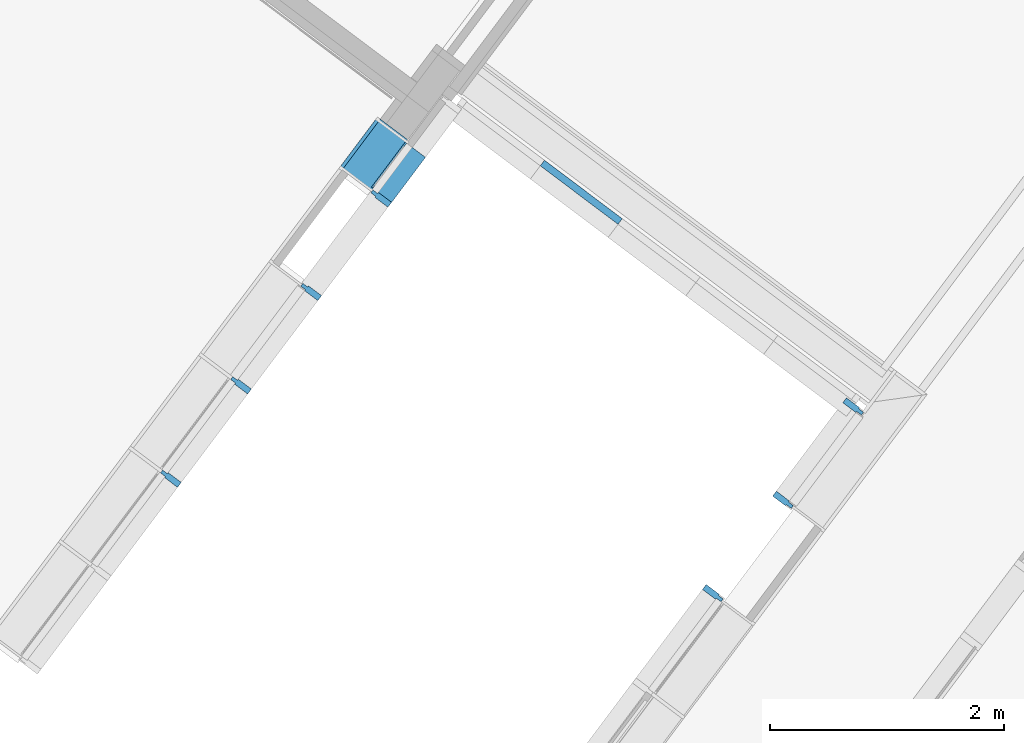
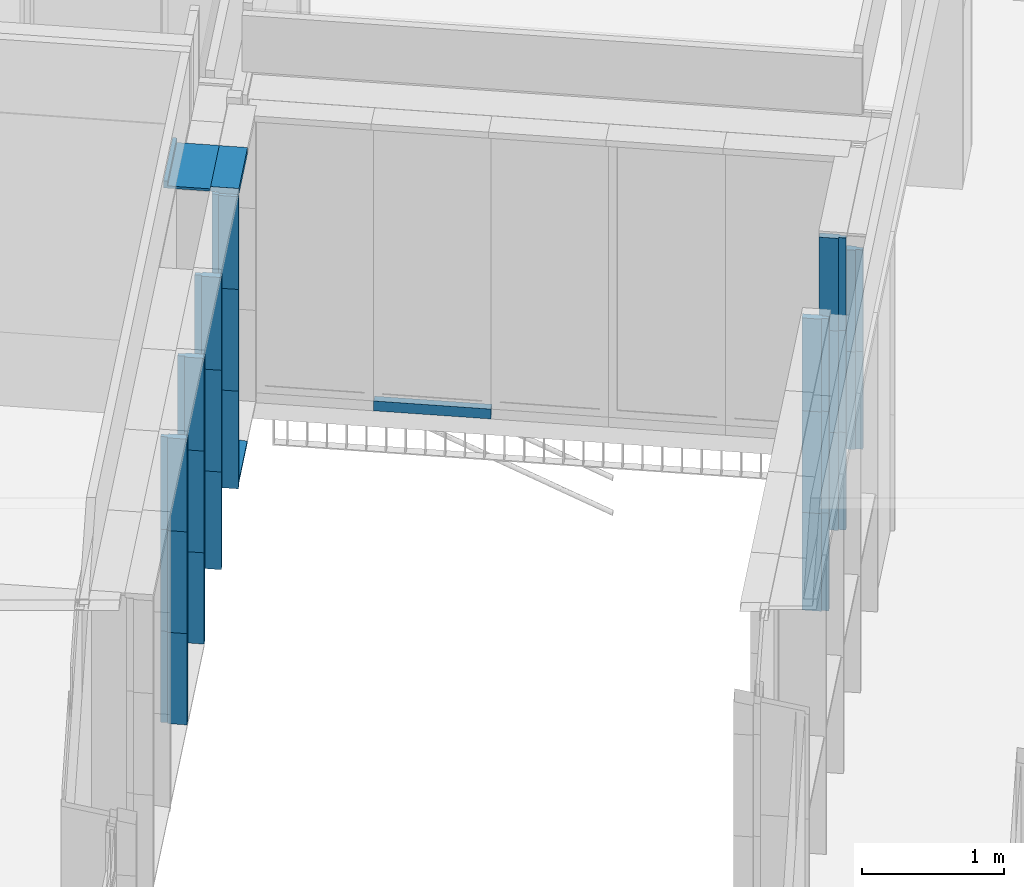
# One storey, part 97 of 243: 24 members, 4 elements without a shape of their own.
"""IFC2X3 building model written with IfcOpenShell, lengths in metres."""

from ifc_helpers import new_model, entity, si_unit, converted_unit, derived_unit, direction, frame, frame_2d, origin, place, context, subcontext, project, spatial, polyline, circle_curve, parameter, trimmed, segment, composite_curve, rectangle, outline, extrude, source, transform, mapped, material, type_object, type_shapes, element, aggregate, save


model = new_model("IFC2X3")

# Units and contexts
model_context = context("Model", 3, precision=1e-05, world=origin(), true_north=direction((6.123031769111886e-17, 1.0)))
body_context = subcontext(model_context, "Body", "Model", "MODEL_VIEW")
ifc_project = project(units=[si_unit("LENGTHUNIT", "METRE"), si_unit("AREAUNIT", "SQUARE_METRE"), si_unit("VOLUMEUNIT", "CUBIC_METRE"), converted_unit("PLANEANGLEUNIT", "DEGREE", entity("IfcRatioMeasure", 0.017453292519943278), si_unit("PLANEANGLEUNIT", "RADIAN"), dimensions=[0, 0, 0, 0, 0, 0, 0]), si_unit("MASSUNIT", "GRAM", prefix="KILO"), derived_unit("MASSDENSITYUNIT", [(si_unit("MASSUNIT", "GRAM", prefix="KILO"), 1), (si_unit("LENGTHUNIT", "METRE"), -3)]), derived_unit("IONCONCENTRATIONUNIT", [(si_unit("MASSUNIT", "GRAM", prefix="KILO"), 1), (si_unit("LENGTHUNIT", "METRE"), -3)]), derived_unit("MOMENTOFINERTIAUNIT", [(si_unit("LENGTHUNIT", "METRE"), 4)]), si_unit("TIMEUNIT", "SECOND"), si_unit("FREQUENCYUNIT", "HERTZ"), si_unit("THERMODYNAMICTEMPERATUREUNIT", "DEGREE_CELSIUS"), derived_unit("THERMALTRANSMITTANCEUNIT", [(si_unit("MASSUNIT", "GRAM", prefix="KILO"), 1), (si_unit("THERMODYNAMICTEMPERATUREUNIT", "KELVIN"), -1), (si_unit("TIMEUNIT", "SECOND"), -3)]), derived_unit("THERMALCONDUCTANCEUNIT", [(si_unit("MASSUNIT", "GRAM", prefix="KILO"), 1), (si_unit("THERMODYNAMICTEMPERATUREUNIT", "KELVIN"), -1), (si_unit("TIMEUNIT", "SECOND"), -3), (si_unit("LENGTHUNIT", "METRE"), 1)]), derived_unit("VOLUMETRICFLOWRATEUNIT", [(si_unit("LENGTHUNIT", "METRE"), 3), (si_unit("TIMEUNIT", "SECOND"), -1)]), derived_unit("MASSFLOWRATEUNIT", [(si_unit("MASSUNIT", "GRAM", prefix="KILO"), 1), (si_unit("TIMEUNIT", "SECOND"), -1)]), derived_unit("ROTATIONALFREQUENCYUNIT", [(si_unit("TIMEUNIT", "SECOND"), -1)]), si_unit("ELECTRICCURRENTUNIT", "AMPERE"), si_unit("ELECTRICVOLTAGEUNIT", "VOLT"), si_unit("POWERUNIT", "WATT"), si_unit("FORCEUNIT", "NEWTON", prefix="KILO"), si_unit("ILLUMINANCEUNIT", "LUX"), si_unit("LUMINOUSFLUXUNIT", "LUMEN"), si_unit("LUMINOUSINTENSITYUNIT", "CANDELA"), derived_unit("USERDEFINED", [(si_unit("MASSUNIT", "GRAM", prefix="KILO"), -1), (si_unit("LENGTHUNIT", "METRE"), -2), (si_unit("TIMEUNIT", "SECOND"), 3), (si_unit("LUMINOUSFLUXUNIT", "LUMEN"), 1)]), derived_unit("USERDEFINED", [(si_unit("MASSUNIT", "GRAM", prefix="KILO"), 1), (si_unit("TIMEUNIT", "SECOND"), -3), (si_unit("LENGTHUNIT", "METRE"), 3), (si_unit("ELECTRICCURRENTUNIT", "AMPERE"), -2)]), derived_unit("SOUNDPOWERUNIT", [(si_unit("MASSUNIT", "GRAM", prefix="KILO"), 1), (si_unit("TIMEUNIT", "SECOND"), -3), (si_unit("LENGTHUNIT", "METRE"), 2)]), derived_unit("SOUNDPRESSUREUNIT", [(si_unit("MASSUNIT", "GRAM", prefix="KILO"), 1), (si_unit("LENGTHUNIT", "METRE"), -1), (si_unit("TIMEUNIT", "SECOND"), -2)]), derived_unit("LINEARVELOCITYUNIT", [(si_unit("LENGTHUNIT", "METRE"), 1), (si_unit("TIMEUNIT", "SECOND"), -1)]), si_unit("PRESSUREUNIT", "PASCAL"), derived_unit("USERDEFINED", [(si_unit("MASSUNIT", "GRAM", prefix="KILO"), 1), (si_unit("LENGTHUNIT", "METRE"), -2), (si_unit("TIMEUNIT", "SECOND"), -2)]), derived_unit("LINEARFORCEUNIT", [(si_unit("MASSUNIT", "GRAM", prefix="KILO"), 1), (si_unit("TIMEUNIT", "SECOND"), -2)]), derived_unit("PLANARFORCEUNIT", [(si_unit("MASSUNIT", "GRAM", prefix="KILO"), 1), (si_unit("LENGTHUNIT", "METRE"), -1), (si_unit("TIMEUNIT", "SECOND"), -2)]), derived_unit("SPECIFICHEATCAPACITYUNIT", [(si_unit("THERMODYNAMICTEMPERATUREUNIT", "KELVIN"), -1), (si_unit("LENGTHUNIT", "METRE"), 2), (si_unit("TIMEUNIT", "SECOND"), -2)]), derived_unit("HEATINGVALUEUNIT", [(si_unit("LENGTHUNIT", "METRE"), 2), (si_unit("TIMEUNIT", "SECOND"), -2)]), derived_unit("VAPORPERMEABILITYUNIT", [(si_unit("LENGTHUNIT", "METRE"), -1), (si_unit("TIMEUNIT", "SECOND"), 1)]), derived_unit("DYNAMICVISCOSITYUNIT", [(si_unit("MASSUNIT", "GRAM", prefix="KILO"), 1), (si_unit("TIMEUNIT", "SECOND"), -1), (si_unit("LENGTHUNIT", "METRE"), -1)]), derived_unit("THERMALEXPANSIONCOEFFICIENTUNIT", [(si_unit("THERMODYNAMICTEMPERATUREUNIT", "KELVIN"), -1)]), derived_unit("MODULUSOFELASTICITYUNIT", [(si_unit("MASSUNIT", "GRAM", prefix="KILO"), 1), (si_unit("LENGTHUNIT", "METRE"), -1), (si_unit("TIMEUNIT", "SECOND"), -2)]), derived_unit("ISOTHERMALMOISTURECAPACITYUNIT", [(si_unit("LENGTHUNIT", "METRE"), 3), (si_unit("MASSUNIT", "GRAM", prefix="KILO"), -1)]), derived_unit("MOISTUREDIFFUSIVITYUNIT", [(si_unit("TIMEUNIT", "SECOND"), -1), (si_unit("LENGTHUNIT", "METRE"), 2)])], contexts=[model_context])

# Site, building, storey
site_placement = place(None, frame((0.0, 0.0, 235.0), z_axis=(0.0, 0.0, 1.0), x_axis=(-0.7996477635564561, 0.6004693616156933, 0.0)))
site = spatial("IfcSite", under=ifc_project, at=site_placement, Name="Default", CompositionType="ELEMENT")
building_placement = place(site_placement, origin())
building = spatial("IfcBuilding", under=site, at=building_placement, CompositionType="ELEMENT")
storey_placement = place(building_placement, origin())
storey = spatial("IfcBuildingStorey", under=building, at=storey_placement, Name="P0- Escola", CompositionType="ELEMENT", Elevation=0.0)

# Curtain wall, members
curtain_wall_type_1 = type_object("IfcCurtainWallType", Name="Muro cortina:MC- EXT- MC2", PredefinedType="NOTDEFINED")
curtain_wall_1_placement = place(storey_placement, origin())
curtain_wall_1 = element("IfcCurtainWall", 1, at=curtain_wall_1_placement, inside=storey, type_object=curtain_wall_type_1, Name="Muro cortina:MC- EXT- MC2", ObjectType="Muro cortina:MC- EXT- MC2")
ifc_material_1 = material(Name="_Alumini- T1- Perfil")
member_type_1 = type_object("IfcMemberType", Name="Montante rectangular:MC- Alu- 140x52,5 cm- Fa patis- Centre", PredefinedType="MULLION", material=ifc_material_1)
shared_shape_1 = source(origin(), body_context, "Body", "SweptSolid", [
    extrude(outline(polyline([(-0.11699999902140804, -0.026250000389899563), (0.021999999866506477, -0.026250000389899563), (0.021999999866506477, -0.01500000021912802), (0.07299999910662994, -0.01500000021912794), (0.07299999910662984, 0.015000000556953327), (0.02200000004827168, 0.015000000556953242), (0.02200000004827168, 0.026250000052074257), (-0.11699999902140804, 0.026250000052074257), (-0.11699999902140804, -0.026250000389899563)])), frame((0.0, 0.022999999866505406, -0.8400000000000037), z_axis=(0.0, 0.0, 1.0), x_axis=(0.0, -1.0, 0.0)), (0.0, 0.0, 1.0), 0.8400000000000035),
])
type_shapes(member_type_1, [shared_shape_1])
member_1_placement = place(curtain_wall_1_placement, frame((53.745147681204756, -35.41519175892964, -0.02), z_axis=(0.0, 0.0, -1.0), x_axis=(0.0, -1.0, 0.0)))
member_1 = element("IfcMember", 2, at=member_1_placement, type_object=member_type_1, material=ifc_material_1, Name="Montante rectangular:MC- Alu- 140x52,5 cm- Fa patis- Centre", ObjectType="Montante rectangular:MC- Alu- 140x52,5 cm- Fa patis- Centre", context=body_context, shape_type="MappedRepresentation", body=[
    mapped(shared_shape_1, transform((0.0, 0.0, 0.0), scale=1.0)),
])
member_2_placement = place(curtain_wall_1_placement, frame((53.745147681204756, -34.4151917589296, -0.02), z_axis=(0.0, 0.0, -1.0), x_axis=(0.0, -1.0, 0.0)))
member_2 = element("IfcMember", 3, at=member_2_placement, type_object=member_type_1, material=ifc_material_1, Name="Montante rectangular:MC- Alu- 140x52,5 cm- Fa patis- Centre", ObjectType="Montante rectangular:MC- Alu- 140x52,5 cm- Fa patis- Centre", context=body_context, shape_type="MappedRepresentation", body=[
    mapped(shared_shape_1, transform((0.0, 0.0, 0.0), scale=1.0)),
])
member_type_2 = type_object("IfcMemberType", Name="Montante rectangular:MC- Alu- 140x52,5 cm- Fa patis- Centre", PredefinedType="MULLION", material=ifc_material_1)
shared_shape_2 = source(origin(), body_context, "Body", "SweptSolid", [
    extrude(outline(polyline([(-0.11699999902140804, -0.026250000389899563), (0.021999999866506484, -0.026250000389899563), (0.021999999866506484, -0.01500000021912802), (0.07299999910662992, -0.01500000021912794), (0.07299999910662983, 0.015000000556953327), (0.022000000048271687, 0.015000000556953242), (0.022000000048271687, 0.026250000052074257), (-0.11699999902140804, 0.026250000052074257), (-0.11699999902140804, -0.026250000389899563)])), frame((0.0, 0.022999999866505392, -0.7850000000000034), z_axis=(0.0, 0.0, 1.0), x_axis=(0.0, -1.0, 0.0)), (0.0, 0.0, 1.0), 0.7850000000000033),
])
type_shapes(member_type_2, [shared_shape_2])
member_3_placement = place(curtain_wall_1_placement, frame((53.74514768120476, -32.415191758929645, 0.035000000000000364), z_axis=(0.0, 0.0, -1.0), x_axis=(0.0, -1.0, 0.0)))
member_3 = element("IfcMember", 4, at=member_3_placement, type_object=member_type_2, material=ifc_material_1, Name="Montante rectangular:MC- Alu- 140x52,5 cm- Fa patis- Centre", ObjectType="Montante rectangular:MC- Alu- 140x52,5 cm- Fa patis- Centre", context=body_context, shape_type="MappedRepresentation", body=[
    mapped(shared_shape_2, transform((0.0, 0.0, 0.0), scale=1.0)),
])
member_4_placement = place(curtain_wall_1_placement, frame((53.74514768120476, -33.41519175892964, 0.035000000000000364), z_axis=(0.0, 0.0, -1.0), x_axis=(0.0, -1.0, 0.0)))
member_4 = element("IfcMember", 5, at=member_4_placement, type_object=member_type_2, material=ifc_material_1, Name="Montante rectangular:MC- Alu- 140x52,5 cm- Fa patis- Centre", ObjectType="Montante rectangular:MC- Alu- 140x52,5 cm- Fa patis- Centre", context=body_context, shape_type="MappedRepresentation", body=[
    mapped(shared_shape_2, transform((0.0, 0.0, 0.0), scale=1.0)),
])
member_type_3 = type_object("IfcMemberType", Name="Montante rectangular:MC- Alu- 140x52,5 cm- Fa patis- Centre", PredefinedType="MULLION", material=ifc_material_1)
shared_shape_3 = source(origin(), body_context, "Body", "SweptSolid", [
    extrude(outline(polyline([(-0.11699999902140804, -0.026250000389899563), (0.021999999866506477, -0.026250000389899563), (0.021999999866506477, -0.01500000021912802), (0.07299999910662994, -0.01500000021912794), (0.07299999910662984, 0.015000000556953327), (0.02200000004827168, 0.015000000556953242), (0.02200000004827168, 0.026250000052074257), (-0.11699999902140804, 0.026250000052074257), (-0.11699999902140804, -0.026250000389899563)])), frame((0.0, 0.022999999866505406, -0.8750000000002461), z_axis=(0.0, 0.0, 1.0), x_axis=(0.0, -1.0, 0.0)), (0.0, 0.0, 1.0), 0.8750000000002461),
])
type_shapes(member_type_3, [shared_shape_3])
member_5_placement = place(curtain_wall_1_placement, frame((53.74514768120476, -32.415191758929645, 0.8200000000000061), z_axis=(0.0, 0.0, -1.0), x_axis=(0.0, -1.0, 0.0)))
member_5 = element("IfcMember", 6, at=member_5_placement, type_object=member_type_3, material=ifc_material_1, Name="Montante rectangular:MC- Alu- 140x52,5 cm- Fa patis- Centre", ObjectType="Montante rectangular:MC- Alu- 140x52,5 cm- Fa patis- Centre", context=body_context, shape_type="MappedRepresentation", body=[
    mapped(shared_shape_3, transform((0.0, 0.0, 0.0), scale=1.0)),
])
member_6_placement = place(curtain_wall_1_placement, frame((53.74514768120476, -33.41519175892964, 0.8200000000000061), z_axis=(0.0, 0.0, -1.0), x_axis=(0.0, -1.0, 0.0)))
member_6 = element("IfcMember", 7, at=member_6_placement, type_object=member_type_3, material=ifc_material_1, Name="Montante rectangular:MC- Alu- 140x52,5 cm- Fa patis- Centre", ObjectType="Montante rectangular:MC- Alu- 140x52,5 cm- Fa patis- Centre", context=body_context, shape_type="MappedRepresentation", body=[
    mapped(shared_shape_3, transform((0.0, 0.0, 0.0), scale=1.0)),
])
member_7_placement = place(curtain_wall_1_placement, frame((53.745147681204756, -34.4151917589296, 0.8200000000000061), z_axis=(0.0, 0.0, -1.0), x_axis=(0.0, -1.0, 0.0)))
member_7 = element("IfcMember", 8, at=member_7_placement, type_object=member_type_3, material=ifc_material_1, Name="Montante rectangular:MC- Alu- 140x52,5 cm- Fa patis- Centre", ObjectType="Montante rectangular:MC- Alu- 140x52,5 cm- Fa patis- Centre", context=body_context, shape_type="MappedRepresentation", body=[
    mapped(shared_shape_3, transform((0.0, 0.0, 0.0), scale=1.0)),
])
member_8_placement = place(curtain_wall_1_placement, frame((53.745147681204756, -35.41519175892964, 0.8200000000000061), z_axis=(0.0, 0.0, -1.0), x_axis=(0.0, -1.0, 0.0)))
member_8 = element("IfcMember", 9, at=member_8_placement, type_object=member_type_3, material=ifc_material_1, Name="Montante rectangular:MC- Alu- 140x52,5 cm- Fa patis- Centre", ObjectType="Montante rectangular:MC- Alu- 140x52,5 cm- Fa patis- Centre", context=body_context, shape_type="MappedRepresentation", body=[
    mapped(shared_shape_3, transform((0.0, 0.0, 0.0), scale=1.0)),
])

# Curtain wall, member
curtain_wall_type_2 = type_object("IfcCurtainWallType", Name="Muro cortina:MC- INT- k7- Aules infantil", PredefinedType="NOTDEFINED")
curtain_wall_2_placement = place(storey_placement, origin())
curtain_wall_2 = element("IfcCurtainWall", 10, at=curtain_wall_2_placement, inside=storey, type_object=curtain_wall_type_2, Name="Muro cortina:MC- INT- k7- Aules infantil", ObjectType="Muro cortina:MC- INT- k7- Aules infantil")
ifc_material_2 = material(Name="_Fusta massisa- T1")
member_type_4 = type_object("IfcMemberType", Name="Montante rectangular:MC- Fusta- 35x3 cm- Pati aules- Remat superior", PredefinedType="MULLION", material=ifc_material_2)
shared_shape_4 = source(origin(), body_context, "Body", "SweptSolid", [
    extrude(outline(polyline([(-0.21333333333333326, -0.02666666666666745), (0.1216666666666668, -0.02666666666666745), (0.12166666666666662, 0.03333333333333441), (0.09166666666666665, 0.03333333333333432), (0.09166666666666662, -0.006666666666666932), (-0.2133333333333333, -0.006666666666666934), (-0.21333333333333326, -0.02666666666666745)])), frame((-0.033333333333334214, 0.026666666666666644, -0.5379982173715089), z_axis=(0.0, 0.0, 1.0), x_axis=(0.0, -1.0, 0.0)), (0.0, 0.0, 1.0), 0.5379982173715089),
])
type_shapes(member_type_4, [shared_shape_4])
member_9_placement = place(curtain_wall_2_placement, frame((54.045147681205, -35.95318997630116, 2.565), z_axis=(0.0, -1.0, 0.0), x_axis=(0.0, 0.0, 1.0)))
member_9 = element("IfcMember", 11, at=member_9_placement, type_object=member_type_4, material=ifc_material_2, Name="Montante rectangular:MC- Fusta- 35x3 cm- Pati aules- Remat superior", ObjectType="Montante rectangular:MC- Fusta- 35x3 cm- Pati aules- Remat superior", context=body_context, shape_type="MappedRepresentation", body=[
    mapped(shared_shape_4, transform((0.0, 0.0, 0.0), scale=1.0)),
])
aggregate(curtain_wall_2, [member_9])

# Member
member_type_5 = type_object("IfcMemberType", Name="Montante rectangular:MC- Alu- 140x52,5 cm- Fa patis- inferior", PredefinedType="MULLION", material=ifc_material_1)
shared_shape_5 = source(origin(), body_context, "Body", "SweptSolid", [
    extrude(outline(composite_curve([segment(polyline([(0.1278672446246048, -0.025867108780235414), (0.14416724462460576, -0.025867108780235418)]), True, "CONTINUOUS"), segment(polyline([(0.14416724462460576, -0.025867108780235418), (0.1441672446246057, 0.009132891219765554)]), True, "CONTINUOUS"), segment(polyline([(0.1441672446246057, 0.009132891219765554), (0.06786724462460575, 0.009132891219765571)]), True, "CONTINUOUS"), segment(polyline([(0.06786724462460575, 0.009132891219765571), (0.06786724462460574, -0.021159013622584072)]), True, "CONTINUOUS"), segment(polyline([(0.06786724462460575, -0.021159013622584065), (-0.030132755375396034, -0.012332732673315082)]), True, "CONTINUOUS"), segment(polyline([(-0.03013275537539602, -0.012332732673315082), (-0.030132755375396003, 0.0271328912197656)]), True, "CONTINUOUS"), segment(polyline([(-0.030132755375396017, 0.027132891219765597), (-0.0021327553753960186, 0.027132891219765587)]), True, "CONTINUOUS"), segment(polyline([(-0.0021327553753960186, 0.02713289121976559), (-0.0021327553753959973, 0.029132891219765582)]), True, "CONTINUOUS"), segment(polyline([(-0.0021327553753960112, 0.029132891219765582), (-0.032132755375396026, 0.029132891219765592)]), True, "CONTINUOUS"), segment(polyline([(-0.032132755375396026, 0.029132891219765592), (-0.03213275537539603, -0.012152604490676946)]), True, "CONTINUOUS"), segment(polyline([(-0.03213275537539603, -0.012152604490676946), (-0.0701327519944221, -0.008730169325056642)]), True, "CONTINUOUS"), segment(polyline([(-0.0701327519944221, -0.008730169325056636), (-0.0701327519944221, 0.005766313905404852)]), True, "CONTINUOUS"), segment(trimmed(circle_curve(frame_2d((-0.0696327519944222, 0.005766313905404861), x_axis=(-1.0, 0.0)), 0.0004999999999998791), [parameter(269.999999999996)], [parameter(0.0)], True, "PARAMETER"), False, "CONTINUOUS"), segment(polyline([(-0.0696327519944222, 0.006266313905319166), (-0.06213275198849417, 0.0062663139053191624)]), True, "CONTINUOUS"), segment(polyline([(-0.06213275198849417, 0.0062663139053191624), (-0.06213275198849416, 0.008266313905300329)]), True, "CONTINUOUS"), segment(polyline([(-0.06213275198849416, 0.008266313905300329), (-0.07013275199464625, 0.00826631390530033)]), True, "CONTINUOUS"), segment(trimmed(circle_curve(frame_2d((-0.07013275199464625, 0.006266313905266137), x_axis=(0.0, 1.0)), 0.0020000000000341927), [parameter(0.0)], [parameter(90.00000002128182)], True, "PARAMETER"), True, "CONTINUOUS"), segment(polyline([(-0.07213275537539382, 0.00626631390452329), (-0.07213275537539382, -0.008730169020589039)]), True, "CONTINUOUS"), segment(trimmed(circle_curve(frame_2d((-0.07013275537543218, -0.008730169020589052), x_axis=(-1.0, 0.0)), 0.0019999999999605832), [parameter(0.0)], [parameter(84.85359280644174)], True, "PARAMETER"), True, "CONTINUOUS"), segment(polyline([(-0.07031215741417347, -0.010722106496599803), (0.06786724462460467, -0.023167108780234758)]), True, "CONTINUOUS"), segment(polyline([(0.06786724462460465, -0.02316710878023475), (0.12786724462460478, -0.02316710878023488)]), True, "CONTINUOUS"), segment(polyline([(0.12786724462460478, -0.02316710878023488), (0.1278672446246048, -0.025867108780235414)]), True, "CONTINUOUS")], self_intersect=False)), frame((-0.029132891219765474, 0.06786724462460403, -0.4817482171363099), z_axis=(0.0, 0.0, 1.0), x_axis=(0.0, -1.0, 0.0)), (0.0, 0.0, 1.0), 0.48174821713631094),
])
type_shapes(member_type_5, [shared_shape_5])
member_10_placement = place(curtain_wall_1_placement, frame((53.745147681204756, -35.44144175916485, -0.02), z_axis=(0.0, 1.0, 0.0), x_axis=(0.0, 0.0, -1.0)))
member_10 = element("IfcMember", 12, at=member_10_placement, type_object=member_type_5, material=ifc_material_1, Name="Montante rectangular:MC- Alu- 140x52,5 cm- Fa patis- inferior", ObjectType="Montante rectangular:MC- Alu- 140x52,5 cm- Fa patis- inferior", context=body_context, shape_type="MappedRepresentation", body=[
    mapped(shared_shape_5, transform((0.0, 0.0, 0.0), scale=1.0)),
])

member_type_6 = type_object("IfcMemberType", Name="Montante rectangular:MC- Alu- 140x52,5 cm- Fa patis- Superior", PredefinedType="MULLION", material=ifc_material_1)
shared_shape_6 = source(origin(), body_context, "Body", "SweptSolid", [
    extrude(outline(polyline([(-0.11366666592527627, -0.021249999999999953), (0.02633333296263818, -0.021249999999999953), (0.02633333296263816, -0.010000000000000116), (0.08733333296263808, -0.010000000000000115), (0.08733333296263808, 0.03125000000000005), (-0.11366666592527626, 0.031250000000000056), (-0.11366666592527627, -0.021249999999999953)])), frame((-0.031250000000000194, 0.027333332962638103, -0.5079982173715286), z_axis=(0.0, 0.0, 1.0), x_axis=(0.0, -1.0, 0.0)), (0.0, 0.0, 1.0), 0.5079982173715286),
])
type_shapes(member_type_6, [shared_shape_6])
member_11_placement = place(curtain_wall_1_placement, frame((53.745147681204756, -35.92318997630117, 2.545), z_axis=(0.0, -1.0, 0.0), x_axis=(0.0, 0.0, 1.0)))
member_11 = element("IfcMember", 13, at=member_11_placement, type_object=member_type_6, material=ifc_material_1, Name="Montante rectangular:MC- Alu- 140x52,5 cm- Fa patis- Superior", ObjectType="Montante rectangular:MC- Alu- 140x52,5 cm- Fa patis- Superior", context=body_context, shape_type="MappedRepresentation", body=[
    mapped(shared_shape_6, transform((0.0, 0.0, 0.0), scale=1.0)),
])

member_type_7 = type_object("IfcMemberType", Name="Montante rectangular:MC- Alu- 140x52,5 cm- Fa patis- Centre", PredefinedType="MULLION", material=ifc_material_1)
shared_shape_7 = source(origin(), body_context, "Body", "SweptSolid", [
    extrude(outline(polyline([(-0.11699999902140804, -0.026250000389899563), (0.021999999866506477, -0.026250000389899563), (0.021999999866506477, -0.01500000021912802), (0.07299999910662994, -0.01500000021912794), (0.07299999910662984, 0.015000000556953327), (0.02200000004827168, 0.015000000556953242), (0.02200000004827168, 0.026250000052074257), (-0.11699999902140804, 0.026250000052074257), (-0.11699999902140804, -0.026250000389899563)])), frame((0.0, 0.022999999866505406, -0.79749999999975), z_axis=(0.0, 0.0, 1.0), x_axis=(0.0, -1.0, 0.0)), (0.0, 0.0, 1.0), 0.79749999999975),
])
type_shapes(member_type_7, [shared_shape_7])
member_12_placement = place(curtain_wall_1_placement, frame((53.74514768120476, -32.415191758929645, 1.6950000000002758), z_axis=(0.0, 0.0, -1.0), x_axis=(0.0, -1.0, 0.0)))
member_12 = element("IfcMember", 14, at=member_12_placement, type_object=member_type_7, material=ifc_material_1, Name="Montante rectangular:MC- Alu- 140x52,5 cm- Fa patis- Centre", ObjectType="Montante rectangular:MC- Alu- 140x52,5 cm- Fa patis- Centre", context=body_context, shape_type="MappedRepresentation", body=[
    mapped(shared_shape_7, transform((0.0, 0.0, 0.0), scale=1.0)),
])

member_13_placement = place(curtain_wall_1_placement, frame((53.74514768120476, -33.41519175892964, 1.6950000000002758), z_axis=(0.0, 0.0, -1.0), x_axis=(0.0, -1.0, 0.0)))
member_13 = element("IfcMember", 15, at=member_13_placement, type_object=member_type_7, material=ifc_material_1, Name="Montante rectangular:MC- Alu- 140x52,5 cm- Fa patis- Centre", ObjectType="Montante rectangular:MC- Alu- 140x52,5 cm- Fa patis- Centre", context=body_context, shape_type="MappedRepresentation", body=[
    mapped(shared_shape_7, transform((0.0, 0.0, 0.0), scale=1.0)),
])

member_14_placement = place(curtain_wall_1_placement, frame((53.745147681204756, -34.4151917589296, 1.6950000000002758), z_axis=(0.0, 0.0, -1.0), x_axis=(0.0, -1.0, 0.0)))
member_14 = element("IfcMember", 16, at=member_14_placement, type_object=member_type_7, material=ifc_material_1, Name="Montante rectangular:MC- Alu- 140x52,5 cm- Fa patis- Centre", ObjectType="Montante rectangular:MC- Alu- 140x52,5 cm- Fa patis- Centre", context=body_context, shape_type="MappedRepresentation", body=[
    mapped(shared_shape_7, transform((0.0, 0.0, 0.0), scale=1.0)),
])

member_15_placement = place(curtain_wall_1_placement, frame((53.745147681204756, -35.41519175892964, 1.6950000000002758), z_axis=(0.0, 0.0, -1.0), x_axis=(0.0, -1.0, 0.0)))
member_15 = element("IfcMember", 17, at=member_15_placement, type_object=member_type_7, material=ifc_material_1, Name="Montante rectangular:MC- Alu- 140x52,5 cm- Fa patis- Centre", ObjectType="Montante rectangular:MC- Alu- 140x52,5 cm- Fa patis- Centre", context=body_context, shape_type="MappedRepresentation", body=[
    mapped(shared_shape_7, transform((0.0, 0.0, 0.0), scale=1.0)),
])

aggregate(curtain_wall_1, [member_3, member_4, member_10, member_1, member_2, member_11, member_5, member_6, member_7, member_8, member_12, member_13, member_14, member_15])

# Curtain wall, members
curtain_wall_type_3 = type_object("IfcCurtainWallType", Name="Muro cortina:MC- EXT- MC5", PredefinedType="NOTDEFINED")
curtain_wall_3_placement = place(storey_placement, origin())
curtain_wall_3 = element("IfcCurtainWall", 18, at=curtain_wall_3_placement, inside=storey, type_object=curtain_wall_type_3, Name="Muro cortina:MC- EXT- MC5", ObjectType="Muro cortina:MC- EXT- MC5")
member_type_8 = type_object("IfcMemberType", Name="Montante rectangular:MC- Alu- 140x52,5 cm- Fa patis- Centre", PredefinedType="MULLION", material=ifc_material_1)
shared_shape_8 = source(origin(), body_context, "Body", "SweptSolid", [
    extrude(outline(polyline([(-0.021999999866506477, -0.026250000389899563), (0.11699999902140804, -0.026250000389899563), (0.11699999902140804, 0.026250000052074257), (-0.02200000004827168, 0.026250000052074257), (-0.02200000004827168, 0.015000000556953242), (-0.07299999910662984, 0.015000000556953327), (-0.07299999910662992, -0.015000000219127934), (-0.021999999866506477, -0.015000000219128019), (-0.021999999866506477, -0.026250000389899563)])), frame((-0.026250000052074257, -0.022999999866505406, -0.8400000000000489), z_axis=(0.0, 0.0, 1.0), x_axis=(0.0, -1.0, 0.0)), (0.0, 0.0, 1.0), 0.8400000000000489),
])
type_shapes(member_type_8, [shared_shape_8])
member_16_placement = place(curtain_wall_3_placement, frame((49.345147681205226, -36.44138994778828, -0.02), z_axis=(0.0, 0.0, -1.0), x_axis=(0.0, -1.0, 0.0)))
member_16 = element("IfcMember", 19, at=member_16_placement, type_object=member_type_8, material=ifc_material_1, Name="Montante rectangular:MC- Alu- 140x52,5 cm- Fa patis- Centre", ObjectType="Montante rectangular:MC- Alu- 140x52,5 cm- Fa patis- Centre", context=body_context, shape_type="MappedRepresentation", body=[
    mapped(shared_shape_8, transform((0.0, 0.0, 0.0), scale=1.0)),
])
member_type_9 = type_object("IfcMemberType", Name="Montante rectangular:MC- Alu- 140x52,5 cm- Fa patis- Centre", PredefinedType="MULLION", material=ifc_material_1)
shared_shape_9 = source(origin(), body_context, "Body", "SweptSolid", [
    extrude(outline(polyline([(-0.021999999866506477, -0.026250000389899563), (0.11699999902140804, -0.026250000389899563), (0.11699999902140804, 0.026250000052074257), (-0.02200000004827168, 0.026250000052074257), (-0.02200000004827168, 0.015000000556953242), (-0.07299999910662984, 0.015000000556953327), (-0.07299999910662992, -0.01500000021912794), (-0.021999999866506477, -0.01500000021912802), (-0.021999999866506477, -0.026250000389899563)])), frame((0.0, -0.022999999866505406, -0.8400000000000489), z_axis=(0.0, 0.0, 1.0), x_axis=(0.0, -1.0, 0.0)), (0.0, 0.0, 1.0), 0.8400000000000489),
])
type_shapes(member_type_9, [shared_shape_9])
member_17_placement = place(curtain_wall_3_placement, frame((49.345147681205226, -34.41519175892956, -0.02), z_axis=(0.0, 0.0, -1.0), x_axis=(0.0, -1.0, 0.0)))
member_17 = element("IfcMember", 20, at=member_17_placement, type_object=member_type_9, material=ifc_material_1, Name="Montante rectangular:MC- Alu- 140x52,5 cm- Fa patis- Centre", ObjectType="Montante rectangular:MC- Alu- 140x52,5 cm- Fa patis- Centre", context=body_context, shape_type="MappedRepresentation", body=[
    mapped(shared_shape_9, transform((0.0, 0.0, 0.0), scale=1.0)),
])
member_type_10 = type_object("IfcMemberType", Name="Montante rectangular:MC- Alu- 140x52,5 cm- Fa patis- Centre", PredefinedType="MULLION", material=ifc_material_1)
shared_shape_10 = source(origin(), body_context, "Body", "SweptSolid", [
    extrude(outline(polyline([(-0.021999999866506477, -0.026250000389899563), (0.11699999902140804, -0.026250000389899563), (0.11699999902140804, 0.026250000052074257), (-0.02200000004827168, 0.026250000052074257), (-0.02200000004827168, 0.015000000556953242), (-0.07299999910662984, 0.015000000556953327), (-0.07299999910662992, -0.015000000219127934), (-0.021999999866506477, -0.015000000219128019), (-0.021999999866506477, -0.026250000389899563)])), frame((-0.026250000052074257, -0.022999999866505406, -0.8750000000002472), z_axis=(0.0, 0.0, 1.0), x_axis=(0.0, -1.0, 0.0)), (0.0, 0.0, 1.0), 0.8750000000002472),
])
type_shapes(member_type_10, [shared_shape_10])
member_18_placement = place(curtain_wall_3_placement, frame((49.345147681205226, -36.44138994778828, 0.8200000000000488), z_axis=(0.0, 0.0, -1.0), x_axis=(0.0, -1.0, 0.0)))
member_18 = element("IfcMember", 21, at=member_18_placement, type_object=member_type_10, material=ifc_material_1, Name="Montante rectangular:MC- Alu- 140x52,5 cm- Fa patis- Centre", ObjectType="Montante rectangular:MC- Alu- 140x52,5 cm- Fa patis- Centre", context=body_context, shape_type="MappedRepresentation", body=[
    mapped(shared_shape_10, transform((0.0, 0.0, 0.0), scale=1.0)),
])
member_type_11 = type_object("IfcMemberType", Name="Montante rectangular:MC- Alu- 140x52,5 cm- Fa patis- Centre", PredefinedType="MULLION", material=ifc_material_1)
shared_shape_11 = source(origin(), body_context, "Body", "SweptSolid", [
    extrude(outline(polyline([(-0.021999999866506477, -0.026250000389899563), (0.11699999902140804, -0.026250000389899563), (0.11699999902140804, 0.026250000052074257), (-0.02200000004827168, 0.026250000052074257), (-0.02200000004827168, 0.015000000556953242), (-0.07299999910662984, 0.015000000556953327), (-0.07299999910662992, -0.01500000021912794), (-0.021999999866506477, -0.01500000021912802), (-0.021999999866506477, -0.026250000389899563)])), frame((0.0, -0.022999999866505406, -0.8750000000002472), z_axis=(0.0, 0.0, 1.0), x_axis=(0.0, -1.0, 0.0)), (0.0, 0.0, 1.0), 0.8750000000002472),
])
type_shapes(member_type_11, [shared_shape_11])
member_19_placement = place(curtain_wall_3_placement, frame((49.345147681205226, -34.41519175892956, 0.8200000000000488), z_axis=(0.0, 0.0, -1.0), x_axis=(0.0, -1.0, 0.0)))
member_19 = element("IfcMember", 22, at=member_19_placement, type_object=member_type_11, material=ifc_material_1, Name="Montante rectangular:MC- Alu- 140x52,5 cm- Fa patis- Centre", ObjectType="Montante rectangular:MC- Alu- 140x52,5 cm- Fa patis- Centre", context=body_context, shape_type="MappedRepresentation", body=[
    mapped(shared_shape_11, transform((0.0, 0.0, 0.0), scale=1.0)),
])
member_20_placement = place(curtain_wall_3_placement, frame((49.345147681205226, -35.415191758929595, 0.8200000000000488), z_axis=(0.0, 0.0, -1.0), x_axis=(0.0, -1.0, 0.0)))
member_20 = element("IfcMember", 23, at=member_20_placement, type_object=member_type_11, material=ifc_material_1, Name="Montante rectangular:MC- Alu- 140x52,5 cm- Fa patis- Centre", ObjectType="Montante rectangular:MC- Alu- 140x52,5 cm- Fa patis- Centre", context=body_context, shape_type="MappedRepresentation", body=[
    mapped(shared_shape_11, transform((0.0, 0.0, 0.0), scale=1.0)),
])
member_type_12 = type_object("IfcMemberType", Name="Montante rectangular:MC- Alu- 140x52,5 cm- Fa patis- Centre", PredefinedType="MULLION", material=ifc_material_1)
shared_shape_12 = source(origin(), body_context, "Body", "SweptSolid", [
    extrude(outline(polyline([(-0.021999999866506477, -0.026250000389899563), (0.11699999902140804, -0.026250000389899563), (0.11699999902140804, 0.026250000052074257), (-0.02200000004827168, 0.026250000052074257), (-0.02200000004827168, 0.015000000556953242), (-0.07299999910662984, 0.015000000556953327), (-0.07299999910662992, -0.01500000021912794), (-0.021999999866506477, -0.01500000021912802), (-0.021999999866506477, -0.026250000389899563)])), frame((0.0, -0.022999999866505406, -0.8400000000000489), z_axis=(0.0, 0.0, 1.0), x_axis=(0.0, -1.0, 0.0)), (0.0, 0.0, 1.0), 0.8400000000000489),
])
type_shapes(member_type_12, [shared_shape_12])
member_21_placement = place(curtain_wall_3_placement, frame((49.345147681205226, -35.415191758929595, -0.02), z_axis=(0.0, 0.0, -1.0), x_axis=(0.0, -1.0, 0.0)))
member_21 = element("IfcMember", 24, at=member_21_placement, type_object=member_type_12, material=ifc_material_1, Name="Montante rectangular:MC- Alu- 140x52,5 cm- Fa patis- Centre", ObjectType="Montante rectangular:MC- Alu- 140x52,5 cm- Fa patis- Centre", context=body_context, shape_type="MappedRepresentation", body=[
    mapped(shared_shape_12, transform((0.0, 0.0, 0.0), scale=1.0)),
])
member_type_13 = type_object("IfcMemberType", Name="Montante rectangular:MC- Alu- 140x52,5 cm- Fa patis- Centre", PredefinedType="MULLION", material=ifc_material_1)
shared_shape_13 = source(origin(), body_context, "Body", "SweptSolid", [
    extrude(outline(polyline([(-0.021999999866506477, -0.026250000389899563), (0.11699999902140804, -0.026250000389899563), (0.11699999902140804, 0.026250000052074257), (-0.02200000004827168, 0.026250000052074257), (-0.02200000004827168, 0.015000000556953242), (-0.07299999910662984, 0.015000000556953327), (-0.07299999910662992, -0.01500000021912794), (-0.021999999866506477, -0.01500000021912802), (-0.021999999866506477, -0.026250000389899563)])), frame((0.0, -0.022999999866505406, -0.7974999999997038), z_axis=(0.0, 0.0, 1.0), x_axis=(0.0, -1.0, 0.0)), (0.0, 0.0, 1.0), 0.7974999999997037),
])
type_shapes(member_type_13, [shared_shape_13])
member_22_placement = place(curtain_wall_3_placement, frame((49.345147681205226, -34.41519175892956, 1.695000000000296), z_axis=(0.0, 0.0, -1.0), x_axis=(0.0, -1.0, 0.0)))
member_22 = element("IfcMember", 25, at=member_22_placement, type_object=member_type_13, material=ifc_material_1, Name="Montante rectangular:MC- Alu- 140x52,5 cm- Fa patis- Centre", ObjectType="Montante rectangular:MC- Alu- 140x52,5 cm- Fa patis- Centre", context=body_context, shape_type="MappedRepresentation", body=[
    mapped(shared_shape_13, transform((0.0, 0.0, 0.0), scale=1.0)),
])
member_23_placement = place(curtain_wall_3_placement, frame((49.345147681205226, -35.415191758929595, 1.695000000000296), z_axis=(0.0, 0.0, -1.0), x_axis=(0.0, -1.0, 0.0)))
member_23 = element("IfcMember", 26, at=member_23_placement, type_object=member_type_13, material=ifc_material_1, Name="Montante rectangular:MC- Alu- 140x52,5 cm- Fa patis- Centre", ObjectType="Montante rectangular:MC- Alu- 140x52,5 cm- Fa patis- Centre", context=body_context, shape_type="MappedRepresentation", body=[
    mapped(shared_shape_13, transform((0.0, 0.0, 0.0), scale=1.0)),
])
aggregate(curtain_wall_3, [member_16, member_17, member_18, member_19, member_20, member_21, member_22, member_23])

# Curtain wall, member
curtain_wall_type_4 = type_object("IfcCurtainWallType", PredefinedType="NOTDEFINED")
curtain_wall_4_placement = place(storey_placement, origin())
curtain_wall_4 = element("IfcCurtainWall", 27, at=curtain_wall_4_placement, inside=storey, type_object=curtain_wall_type_4)
member_type_14 = type_object("IfcMemberType", Name="Montante rectangular:MC- Alu- 52x80 cm- Fa pista- inferior", PredefinedType="MULLION", material=ifc_material_1)
shared_shape_14 = source(origin(), body_context, "Body", "SweptSolid", [
    extrude(rectangle(XDim=0.06000000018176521, YDim=0.08500000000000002, at=frame_2d((-5.204170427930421e-18, -6.938893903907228e-18), x_axis=(1.0, 0.0))), frame((-0.0425, 0.030000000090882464, -0.8327999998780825), z_axis=(0.0, 0.0, 1.0), x_axis=(0.0, -1.0, 0.0)), (0.0, 0.0, 1.0), 0.8327999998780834),
])
type_shapes(member_type_14, [shared_shape_14])
member_24_placement = place(curtain_wall_4_placement, frame((51.94154768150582, -36.45518994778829, -0.02), z_axis=(-1.0, 0.0, 0.0), x_axis=(0.0, 0.0, -1.0)))
member_24 = element("IfcMember", 28, at=member_24_placement, type_object=member_type_14, material=ifc_material_1, Name="Montante rectangular:MC- Alu- 52x80 cm- Fa pista- inferior", ObjectType="Montante rectangular:MC- Alu- 52x80 cm- Fa pista- inferior", context=body_context, shape_type="MappedRepresentation", body=[
    mapped(shared_shape_14, transform((0.0, 0.0, 0.0), scale=1.0)),
])
aggregate(curtain_wall_4, [member_24])

save(model, "model.ifc")
